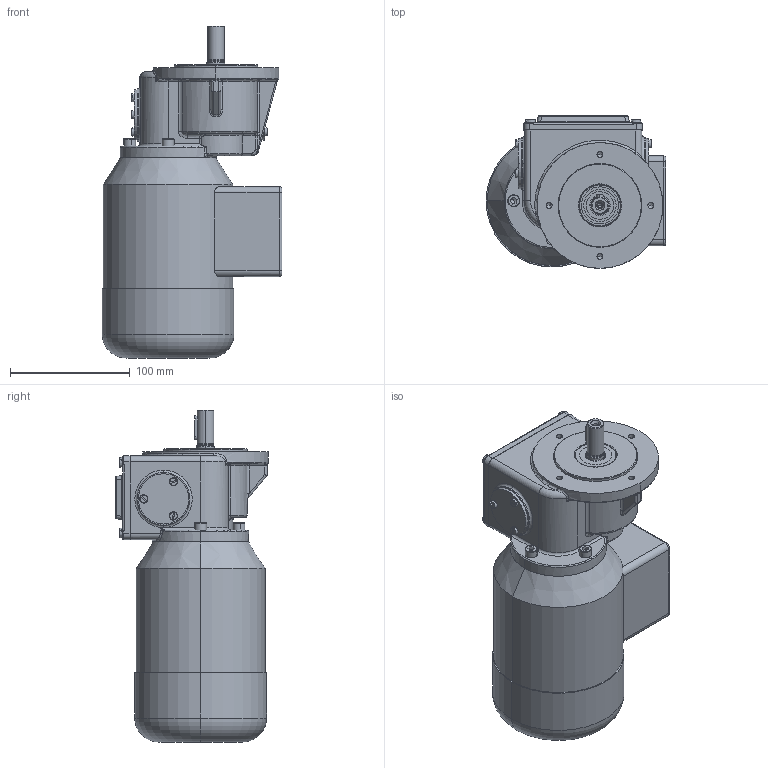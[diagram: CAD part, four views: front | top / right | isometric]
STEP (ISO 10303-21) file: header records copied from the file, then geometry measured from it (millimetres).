
FILE_DESCRIPTION (( 'STEP AP214' ), '1' );
FILE_NAME ('SN2F_90W_1400Upm_Drehstrom-Motor.STEP', '2021-09-21T14:53:57', ( '' ), ( '' ), 'SwSTEP 2.0', 'SolidWorks 2019', '' );
FILE_SCHEMA (( 'AUTOMOTIVE_DESIGN' ));
Length unit declared in the file: millimetre
Products named in the file (13): SN2F_3D_Export; slotted cheese head screw_iso_ISO 1207 - M5 x 14 - 14C; 02F-W-001_3D_Export; 02-M-011 I 90W_1400Upm; 02F-D-004_3D_Export; slotted cheese head screw_iso_ISO 1207 - M4 x 12 - 12C; 11-D-006; NBR_WDR_15x35x7; PF_A5x5x20; socket set screw cup point_iso_ISO 4029 - M6 x 25-C; 02F-G-004_3D_Export; SN2F_90W_1400Upm_Drehstrom-Motor; socket head cap screw_iso_ISO 4762 M6 x 20 - 20C
Assembly tree (22 placements, depth 3):
  SN2F_90W_1400Upm_Drehstrom-Motor
    SN2F_3D_Export
      02F-G-004_3D_Export
      02F-W-001_3D_Export
      02F-D-004_3D_Export
      11-D-006  x2
      NBR_WDR_15x35x7
      PF_A5x5x20
      slotted cheese head screw_iso_ISO 1207 - M5 x 14 - 14C  x4
      slotted cheese head screw_iso_ISO 1207 - M4 x 12 - 12C  x6
      socket head cap screw_iso_ISO 4762 M6 x 20 - 20C  x2
      socket set screw cup point_iso_ISO 4029 - M6 x 25-C
    02-M-011 I 90W_1400Upm
Bounding box: 150 x 127.5 x 277.2 mm (x, y, z)
Volume: 2474982.1 mm3; surface area: 179140.5 mm2
Topology: 21 solids, 22 shells, 648 faces, 1482 edges, 890 vertices
Faces by surface type: cylinder 233, plane 187, cone 98, bspline 64, torus 63, sphere 3
Entity records: 17364 total; most frequent: CARTESIAN_POINT 5425, DIRECTION 2463, ORIENTED_EDGE 2240, EDGE_CURVE 1120, AXIS2_PLACEMENT_3D 1024, VERTEX_POINT 681, EDGE_LOOP 571, CIRCLE 555
